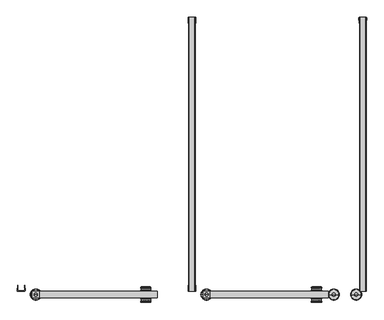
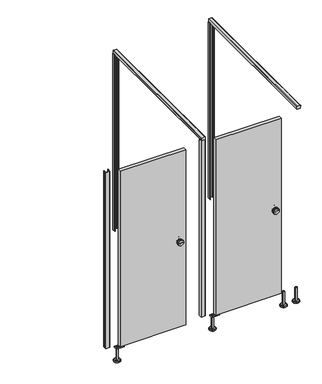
"""IFC4 building model written with IfcOpenShell, lengths in millimetres: proxy geometry, Partition_EuroStyle-Bradley_Corp-ADA_Alcove_3StandardStall-LOFT : Partition_EuroStyle-Bradley_Corp-ADA_Alcove_3StandardStall-LOFT."""

from ifc_helpers import new_model, si_unit, point, frame, frame_2d, origin, place, context, project, spatial, polyline, circle_curve, ellipse_curve, trimmed, segment, composite_curve, outline, extrude, source, transform, mapped, element, save
from ifc_brep_helpers import plane_surface, cylinder_surface, revolved_surface, advanced_brep


def specialty_equipment_7b1527e2(model_context):
    return source(origin(), model_context, "Body", "SolidModel", [
        extrude(outline(polyline([(146.0000008, 3530.6203258), (138.0669895, 3530.6203258), (138.0669895, 3610.4675589), (146.0000008, 3610.3689968), (146.0000008, 3530.6203258)])), frame((0.0, -1559.4621549, 0.0), z_axis=(0.0, 1.0, 0.0), x_axis=(0.0, 0.0, 1.0)), (0.0, 0.0, 1.0), 34.925),
        advanced_brep(
        [(3558.2203248, -1541.9996549, 150.0000008), (3540.2203255, -1541.9996549, 150.0000008), (3540.2203255, -1541.9996549, 12.0000001), (3558.2203248, -1541.9996549, 12.0000001), (3549.2203251, -1541.9996549, 150.0000008), (3580.2203241, -1541.9996549, 0.0), (3518.2203262, -1541.9996549, 0.0), (3549.2203251, -1541.9996549, 0.0), (3580.2203241, -1541.9996549, 10.0000001), (3518.2203262, -1541.9996549, 10.0000001), (3578.2179122, -1541.9996549, 12.0000001), (3520.2227381, -1541.9996549, 12.0000001)],
        [
            (0, 1, circle_curve(frame((3549.2203251, -1541.9996549, 150.0000008), z_axis=(0.0, 0.0, -1.0), x_axis=(-1.0, 0.0, 0.0)), 8.9999997)),
            (1, 2),
            (2, 3, circle_curve(frame((3549.2203251, -1541.9996549, 12.0000001), z_axis=(0.0, 0.0, 1.0), x_axis=(-1.0, 0.0, 0.0)), 8.9999997)),
            (3, 0),
            (1, 0, circle_curve(frame((3549.2203251, -1541.9996549, 150.0000008), z_axis=(0.0, 0.0, -1.0), x_axis=(-1.0, 0.0, 0.0)), 8.9999997)),
            (3, 2, circle_curve(frame((3549.2203251, -1541.9996549, 12.0000001), z_axis=(0.0, 0.0, 1.0), x_axis=(-1.0, 0.0, 0.0)), 8.9999997)),
            (4, 1),
            (0, 4),
            (5, 6, circle_curve(frame((3549.2203251, -1541.9996549, 0.0), z_axis=(0.0, 0.0, -1.0), x_axis=(-1.0, 0.0, 0.0)), 30.9999989)),
            (6, 7),
            (7, 5),
            (6, 5, circle_curve(frame((3549.2203251, -1541.9996549, 0.0), z_axis=(0.0, 0.0, -1.0), x_axis=(-1.0, 0.0, 0.0)), 30.9999989)),
            (8, 9, circle_curve(frame((3549.2203251, -1541.9996549, 10.0000001), z_axis=(0.0, 0.0, -1.0), x_axis=(-1.0, 0.0, 0.0)), 30.9999989)),
            (9, 6),
            (5, 8),
            (9, 8, circle_curve(frame((3549.2203251, -1541.9996549, 10.0000001), z_axis=(0.0, 0.0, -1.0), x_axis=(-1.0, 0.0, 0.0)), 30.9999989)),
            (10, 11, circle_curve(frame((3549.2203251, -1541.9996549, 12.0000001), z_axis=(0.0, 0.0, -1.0), x_axis=(-1.0, 0.0, 0.0)), 28.997587)),
            (11, 9),
            (8, 10),
            (11, 10, circle_curve(frame((3549.2203251, -1541.9996549, 12.0000001), z_axis=(0.0, 0.0, -1.0), x_axis=(-1.0, 0.0, 0.0)), 28.997587)),
            (2, 11),
            (10, 3),
        ],
        [
            cylinder_surface(frame((3549.2203251, -1541.9996549, 0.0), z_axis=(0.0, 0.0, 1.0), x_axis=(-1.0, 0.0, 0.0)), 8.9999997),
            plane_surface(frame((3549.2203251, -1541.9996549, 150.0000008), z_axis=(0.0, 0.0, 1.0), x_axis=(-1.0, 0.0, 0.0))),
            plane_surface(frame((3549.2203251, -1541.9996549, 0.0), z_axis=(0.0, 0.0, -1.0), x_axis=(-1.0, 0.0, 0.0))),
            cylinder_surface(frame((3549.2203251, -1541.9996549, 0.0), z_axis=(0.0, 0.0, 1.0), x_axis=(-1.0, 0.0, 0.0)), 30.9999989),
            revolved_surface(polyline([(3518.2203262, -1541.9996549, 10.0000001), (3520.2227381, -1541.9996549, 12.0000001)]), (3549.2203251, -1541.9996549, 0.0), (0.0, 0.0, 1.0)),
            plane_surface(frame((3549.2203251, -1541.9996549, 12.0000001), z_axis=(0.0, 0.0, 1.0), x_axis=(-1.0, 0.0, 0.0))),
        ],
        [
            (0, [[1, 2, 3, 4]]),
            (0, [[5, -4, 6, -2]]),
            (1, [[7, -1, 8]]),
            (1, [[-8, -5, -7]]),
            (2, [[9, 10, 11]]),
            (2, [[12, -11, -10]]),
            (3, [[13, 14, -9, 15]]),
            (3, [[16, -15, -12, -14]]),
            (4, [[17, 18, -13, 19]]),
            (4, [[20, -19, -16, -18]]),
            (5, [[-3, 21, -17, 22]]),
            (5, [[-6, -22, -20, -21]]),
        ],
    ),
        extrude(outline(polyline([(146.0000008, 2580.2203258), (138.0669895, 2580.2203258), (138.0669895, 2660.0675589), (146.0000008, 2659.9689968), (146.0000008, 2580.2203258)])), frame((0.0, -1559.4621549, 0.0), z_axis=(0.0, 1.0, 0.0), x_axis=(0.0, 0.0, 1.0)), (0.0, 0.0, 1.0), 34.925),
        advanced_brep(
        [(2607.8203248, -1541.9996549, 150.0000008), (2589.8203255, -1541.9996549, 150.0000008), (2589.8203255, -1541.9996549, 12.0000001), (2607.8203248, -1541.9996549, 12.0000001), (2598.8203251, -1541.9996549, 150.0000008), (2629.8203241, -1541.9996549, 0.0), (2567.8203262, -1541.9996549, 0.0), (2598.8203251, -1541.9996549, 0.0), (2629.8203241, -1541.9996549, 10.0000001), (2567.8203262, -1541.9996549, 10.0000001), (2627.8179122, -1541.9996549, 12.0000001), (2569.8227381, -1541.9996549, 12.0000001)],
        [
            (0, 1, circle_curve(frame((2598.8203251, -1541.9996549, 150.0000008), z_axis=(0.0, 0.0, -1.0), x_axis=(-1.0, 0.0, 0.0)), 8.9999997)),
            (1, 2),
            (2, 3, circle_curve(frame((2598.8203251, -1541.9996549, 12.0000001), z_axis=(0.0, 0.0, 1.0), x_axis=(-1.0, 0.0, 0.0)), 8.9999997)),
            (3, 0),
            (1, 0, circle_curve(frame((2598.8203251, -1541.9996549, 150.0000008), z_axis=(0.0, 0.0, -1.0), x_axis=(-1.0, 0.0, 0.0)), 8.9999997)),
            (3, 2, circle_curve(frame((2598.8203251, -1541.9996549, 12.0000001), z_axis=(0.0, 0.0, 1.0), x_axis=(-1.0, 0.0, 0.0)), 8.9999997)),
            (4, 1),
            (0, 4),
            (5, 6, circle_curve(frame((2598.8203251, -1541.9996549, 0.0), z_axis=(0.0, 0.0, -1.0), x_axis=(-1.0, 0.0, 0.0)), 30.9999989)),
            (6, 7),
            (7, 5),
            (6, 5, circle_curve(frame((2598.8203251, -1541.9996549, 0.0), z_axis=(0.0, 0.0, -1.0), x_axis=(-1.0, 0.0, 0.0)), 30.9999989)),
            (8, 9, circle_curve(frame((2598.8203251, -1541.9996549, 10.0000001), z_axis=(0.0, 0.0, -1.0), x_axis=(-1.0, 0.0, 0.0)), 30.9999989)),
            (9, 6),
            (5, 8),
            (9, 8, circle_curve(frame((2598.8203251, -1541.9996549, 10.0000001), z_axis=(0.0, 0.0, -1.0), x_axis=(-1.0, 0.0, 0.0)), 30.9999989)),
            (10, 11, circle_curve(frame((2598.8203251, -1541.9996549, 12.0000001), z_axis=(0.0, 0.0, -1.0), x_axis=(-1.0, 0.0, 0.0)), 28.997587)),
            (11, 9),
            (8, 10),
            (11, 10, circle_curve(frame((2598.8203251, -1541.9996549, 12.0000001), z_axis=(0.0, 0.0, -1.0), x_axis=(-1.0, 0.0, 0.0)), 28.997587)),
            (2, 11),
            (10, 3),
        ],
        [
            cylinder_surface(frame((2598.8203251, -1541.9996549, 0.0), z_axis=(0.0, 0.0, 1.0), x_axis=(-1.0, 0.0, 0.0)), 8.9999997),
            plane_surface(frame((2598.8203251, -1541.9996549, 150.0000008), z_axis=(0.0, 0.0, 1.0), x_axis=(-1.0, 0.0, 0.0))),
            plane_surface(frame((2598.8203251, -1541.9996549, 0.0), z_axis=(0.0, 0.0, -1.0), x_axis=(-1.0, 0.0, 0.0))),
            cylinder_surface(frame((2598.8203251, -1541.9996549, 0.0), z_axis=(0.0, 0.0, 1.0), x_axis=(-1.0, 0.0, 0.0)), 30.9999989),
            revolved_surface(polyline([(2567.8203262, -1541.9996549, 10.0000001), (2569.8227381, -1541.9996549, 12.0000001)]), (2598.8203251, -1541.9996549, 0.0), (0.0, 0.0, 1.0)),
            plane_surface(frame((2598.8203251, -1541.9996549, 12.0000001), z_axis=(0.0, 0.0, 1.0), x_axis=(-1.0, 0.0, 0.0))),
        ],
        [
            (0, [[1, 2, 3, 4]]),
            (0, [[5, -4, 6, -2]]),
            (1, [[7, -1, 8]]),
            (1, [[-8, -5, -7]]),
            (2, [[9, 10, 11]]),
            (2, [[12, -11, -10]]),
            (3, [[13, 14, -9, 15]]),
            (3, [[16, -15, -12, -14]]),
            (4, [[17, 18, -13, 19]]),
            (4, [[20, -19, -16, -18]]),
            (5, [[-3, 21, -17, 22]]),
            (5, [[-6, -22, -20, -21]]),
        ],
    ),
        advanced_brep(
        [(4133.2451766, -1524.0098174, 1050.0), (4190.3951766, -1524.0098174, 1050.0), (4161.8201766, -1524.0098174, 1050.0), (4133.2451766, -1519.2473174, 1050.0), (4190.3951766, -1519.2473174, 1050.0), (4133.2451766, -1500.1973174, 1050.0), (4190.3951766, -1500.1973174, 1050.0), (4190.3951766, -1504.9598174, 1050.0), (4133.2451766, -1504.9598174, 1050.0), (4188.8076766, -1506.5473174, 1050.0), (4134.8326766, -1506.5473174, 1050.0), (4188.8076766, -1517.6598174, 1050.0), (4134.8326766, -1517.6598174, 1050.0), (4161.8201766, -1498.6098174, 1050.0)],
        [
            (0, 1, circle_curve(frame((4161.8201766, -1524.0098174, 1050.0), z_axis=(0.0, -1.0, 0.0), x_axis=(1.0000000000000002, 0.0, 0.0)), 28.575)),
            (1, 2),
            (2, 0),
            (1, 0, circle_curve(frame((4161.8201766, -1524.0098174, 1050.0), z_axis=(0.0, -1.0, 0.0), x_axis=(1.0000000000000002, 0.0, 0.0)), 28.575)),
            (3, 4, circle_curve(frame((4161.8201766, -1519.2473174, 1050.0), z_axis=(0.0, -1.0, 0.0), x_axis=(1.0000000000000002, 0.0, 0.0)), 28.575)),
            (4, 1),
            (0, 3),
            (4, 3, circle_curve(frame((4161.8201766, -1519.2473174, 1050.0), z_axis=(0.0, -1.0, 0.0), x_axis=(1.0000000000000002, 0.0, 0.0)), 28.575)),
            (5, 6, circle_curve(frame((4161.8201766, -1500.1973174, 1050.0), z_axis=(0.0, -1.0, 0.0), x_axis=(1.0000000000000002, 0.0, 0.0)), 28.575)),
            (6, 7),
            (7, 8, circle_curve(frame((4161.8201766, -1504.9598174, 1050.0), z_axis=(0.0, 1.0, 0.0), x_axis=(1.0000000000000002, 0.0, 0.0)), 28.575)),
            (8, 5),
            (6, 5, circle_curve(frame((4161.8201766, -1500.1973174, 1050.0), z_axis=(0.0, -1.0, 0.0), x_axis=(1.0000000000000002, 0.0, 0.0)), 28.575)),
            (8, 7, circle_curve(frame((4161.8201766, -1504.9598174, 1050.0), z_axis=(0.0, 1.0, 0.0), x_axis=(1.0000000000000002, 0.0, 0.0)), 28.575)),
            (7, 9, circle_curve(frame((4190.3951766, -1506.5473174, 1050.0), z_axis=(0.0, 0.0, 1.0), x_axis=(1.0000000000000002, 0.0, 0.0)), 1.5875)),
            (9, 10, circle_curve(frame((4161.8201766, -1506.5473174, 1050.0), z_axis=(0.0, 1.0, 0.0), x_axis=(1.0000000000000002, 0.0, 0.0)), 26.9875)),
            (10, 8, circle_curve(frame((4133.2451766, -1506.5473174, 1050.0), z_axis=(0.0, 0.0, 1.0), x_axis=(-1.0000000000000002, 0.0, 0.0)), 1.5875)),
            (10, 9, circle_curve(frame((4161.8201766, -1506.5473174, 1050.0), z_axis=(0.0, 1.0, 0.0), x_axis=(1.0000000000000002, 0.0, 0.0)), 26.9875)),
            (9, 11),
            (11, 12, circle_curve(frame((4161.8201766, -1517.6598174, 1050.0), z_axis=(0.0, 1.0, 0.0), x_axis=(1.0000000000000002, 0.0, 0.0)), 26.9875)),
            (12, 10),
            (12, 11, circle_curve(frame((4161.8201766, -1517.6598174, 1050.0), z_axis=(0.0, 1.0, 0.0), x_axis=(1.0000000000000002, 0.0, 0.0)), 26.9875)),
            (11, 4, circle_curve(frame((4190.3951766, -1517.6598174, 1050.0), z_axis=(0.0, 0.0, 1.0), x_axis=(1.0000000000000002, 0.0, 0.0)), 1.5875)),
            (3, 12, circle_curve(frame((4133.2451766, -1517.6598174, 1050.0), z_axis=(0.0, 0.0, 1.0), x_axis=(-1.0000000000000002, 0.0, 0.0)), 1.5875)),
            (13, 6, circle_curve(frame((4165.5143, -1690.0843466, 1050.0), z_axis=(0.0, 0.0, -1.0), x_axis=(1.0000000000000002, 0.0, 0.0)), 191.5101613)),
            (5, 13, circle_curve(frame((4158.1260533, -1690.0843466, 1050.0), z_axis=(0.0, 0.0, -1.0), x_axis=(-1.0000000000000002, 0.0, 0.0)), 191.5101613)),
        ],
        [
            plane_surface(frame((4161.8201766, -1524.0098174, 1050.0), z_axis=(0.0, -1.0, 0.0), x_axis=(1.0, 0.0, 0.0))),
            cylinder_surface(frame((4161.8201766, -1524.0098174, 1050.0), z_axis=(0.0, 1.0000000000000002, 0.0), x_axis=(1.0000000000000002, 0.0, 0.0)), 28.575),
            revolved_surface(trimmed(ellipse_curve(frame((4190.3951766, -1506.5473174, 1050.0), z_axis=(0.0, 0.0, -1.0), x_axis=(1.0000000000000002, 0.0, 0.0)), 1.5875, 1.5875), [point((4188.8076766, -1506.5473174, 1050.0))], [point((4190.3951766, -1504.9598174, 1050.0))], True, "CARTESIAN"), (4161.8201766, -1524.0098174, 1050.0), (0.0, 1.0000000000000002, 0.0)),
            cylinder_surface(frame((4161.8201766, -1524.0098174, 1050.0), z_axis=(0.0, 1.0000000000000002, 0.0), x_axis=(1.0000000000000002, 0.0, 0.0)), 26.9875),
            revolved_surface(trimmed(ellipse_curve(frame((4190.3951766, -1517.6598174, 1050.0), z_axis=(0.0, 0.0, -1.0), x_axis=(1.0000000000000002, 0.0, 0.0)), 1.5875, 1.5875), [point((4190.3951766, -1519.2473174, 1050.0))], [point((4188.8076766, -1517.6598174, 1050.0))], True, "CARTESIAN"), (4161.8201766, -1524.0098174, 1050.0), (0.0, 1.0000000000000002, 0.0)),
            revolved_surface(trimmed(ellipse_curve(frame((4165.5143, -1690.0843466, 1050.0), z_axis=(0.0, 0.0, 1.0), x_axis=(1.0000000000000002, 0.0, 0.0)), 191.5101613, 191.5101613), [point((4190.3951766, -1500.1973174, 1050.0))], [point((4161.8201766, -1498.6098174, 1050.0))], True, "CARTESIAN"), (4161.8201766, -1524.0098174, 1050.0), (0.0, 1.0000000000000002, 0.0)),
        ],
        [
            (0, [[1, 2, 3]]),
            (0, [[4, -3, -2]]),
            (1, [[5, 6, -1, 7]]),
            (1, [[8, -7, -4, -6]]),
            (1, [[9, 10, 11, 12]]),
            (1, [[13, -12, 14, -10]]),
            (2, [[-11, 15, 16, 17]]),
            (2, [[-14, -17, 18, -15]]),
            (3, [[-16, 19, 20, 21]]),
            (3, [[-18, -21, 22, -19]]),
            (4, [[-20, 23, -5, 24]]),
            (4, [[-22, -24, -8, -23]]),
            (5, [[25, -9, 26]]),
            (5, [[-26, -13, -25]]),
        ],
    ),
        advanced_brep(
        [(4161.8201766, -1560.0098174, 1050.0), (4190.3951766, -1560.0098174, 1050.0), (4133.2451766, -1560.0098174, 1050.0), (4190.3951766, -1564.7723174, 1050.0), (4133.2451766, -1564.7723174, 1050.0), (4133.2451766, -1579.0598174, 1050.0), (4190.3951766, -1579.0598174, 1050.0), (4190.3951766, -1583.8223174, 1050.0), (4133.2451766, -1583.8223174, 1050.0), (4134.8326766, -1577.4723174, 1050.0), (4188.8076766, -1577.4723174, 1050.0), (4134.8326766, -1566.3598174, 1050.0), (4188.8076766, -1566.3598174, 1050.0), (4161.8201766, -1585.4098174, 1050.0)],
        [
            (0, 1),
            (1, 2, circle_curve(frame((4161.8201766, -1560.0098174, 1050.0), z_axis=(0.0, 1.0, 0.0), x_axis=(1.0000000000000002, 0.0, 0.0)), 28.575)),
            (2, 0),
            (2, 1, circle_curve(frame((4161.8201766, -1560.0098174, 1050.0), z_axis=(0.0, 1.0, 0.0), x_axis=(1.0000000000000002, 0.0, 0.0)), 28.575)),
            (1, 3),
            (3, 4, circle_curve(frame((4161.8201766, -1564.7723174, 1050.0), z_axis=(0.0, 1.0, 0.0), x_axis=(1.0000000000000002, 0.0, 0.0)), 28.575)),
            (4, 2),
            (4, 3, circle_curve(frame((4161.8201766, -1564.7723174, 1050.0), z_axis=(0.0, 1.0, 0.0), x_axis=(1.0000000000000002, 0.0, 0.0)), 28.575)),
            (5, 6, circle_curve(frame((4161.8201766, -1579.0598174, 1050.0), z_axis=(0.0, -1.0, 0.0), x_axis=(1.0000000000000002, 0.0, 0.0)), 28.575)),
            (6, 7),
            (7, 8, circle_curve(frame((4161.8201766, -1583.8223174, 1050.0), z_axis=(0.0, 1.0, 0.0), x_axis=(1.0000000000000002, 0.0, 0.0)), 28.575)),
            (8, 5),
            (6, 5, circle_curve(frame((4161.8201766, -1579.0598174, 1050.0), z_axis=(0.0, -1.0, 0.0), x_axis=(1.0000000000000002, 0.0, 0.0)), 28.575)),
            (8, 7, circle_curve(frame((4161.8201766, -1583.8223174, 1050.0), z_axis=(0.0, 1.0, 0.0), x_axis=(1.0000000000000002, 0.0, 0.0)), 28.575)),
            (9, 10, circle_curve(frame((4161.8201766, -1577.4723174, 1050.0), z_axis=(0.0, -1.0, 0.0), x_axis=(1.0000000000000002, 0.0, 0.0)), 26.9875)),
            (10, 6, circle_curve(frame((4190.3951766, -1577.4723174, 1050.0), z_axis=(0.0, 0.0, 1.0), x_axis=(1.0000000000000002, 0.0, 0.0)), 1.5875)),
            (5, 9, circle_curve(frame((4133.2451766, -1577.4723174, 1050.0), z_axis=(0.0, 0.0, 1.0), x_axis=(-1.0000000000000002, 0.0, 0.0)), 1.5875)),
            (10, 9, circle_curve(frame((4161.8201766, -1577.4723174, 1050.0), z_axis=(0.0, -1.0, 0.0), x_axis=(1.0000000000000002, 0.0, 0.0)), 26.9875)),
            (11, 12, circle_curve(frame((4161.8201766, -1566.3598174, 1050.0), z_axis=(0.0, -1.0, 0.0), x_axis=(1.0000000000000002, 0.0, 0.0)), 26.9875)),
            (12, 10),
            (9, 11),
            (12, 11, circle_curve(frame((4161.8201766, -1566.3598174, 1050.0), z_axis=(0.0, -1.0, 0.0), x_axis=(1.0000000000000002, 0.0, 0.0)), 26.9875)),
            (3, 12, circle_curve(frame((4190.3951766, -1566.3598174, 1050.0), z_axis=(0.0, 0.0, 1.0), x_axis=(1.0000000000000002, 0.0, 0.0)), 1.5875)),
            (11, 4, circle_curve(frame((4133.2451766, -1566.3598174, 1050.0), z_axis=(0.0, 0.0, 1.0), x_axis=(-1.0000000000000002, 0.0, 0.0)), 1.5875)),
            (7, 13, circle_curve(frame((4165.5143, -1393.9352882, 1050.0), z_axis=(0.0, 0.0, -1.0), x_axis=(1.0000000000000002, 0.0, 0.0)), 191.5101613)),
            (13, 8, circle_curve(frame((4158.1260533, -1393.9352882, 1050.0), z_axis=(0.0, 0.0, -1.0), x_axis=(-1.0000000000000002, 0.0, 0.0)), 191.5101613)),
        ],
        [
            plane_surface(frame((4161.8201766, -1560.0098174, 1050.0), z_axis=(0.0, 1.0, 0.0), x_axis=(1.0, 0.0, 0.0))),
            cylinder_surface(frame((4161.8201766, -1560.0098174, 1050.0), z_axis=(0.0, 1.0000000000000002, 0.0), x_axis=(1.0000000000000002, 0.0, 0.0)), 28.575),
            revolved_surface(trimmed(ellipse_curve(frame((4190.3951766, -1577.4723174, 1050.0), z_axis=(0.0, 0.0, -1.0), x_axis=(1.0000000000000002, 0.0, 0.0)), 1.5875, 1.5875), [point((4190.3951766, -1579.0598174, 1050.0))], [point((4188.8076766, -1577.4723174, 1050.0))], True, "CARTESIAN"), (4161.8201766, -1560.0098174, 1050.0), (0.0, 1.0000000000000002, 0.0)),
            cylinder_surface(frame((4161.8201766, -1560.0098174, 1050.0), z_axis=(0.0, 1.0000000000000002, 0.0), x_axis=(1.0000000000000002, 0.0, 0.0)), 26.9875),
            revolved_surface(trimmed(ellipse_curve(frame((4190.3951766, -1566.3598174, 1050.0), z_axis=(0.0, 0.0, -1.0), x_axis=(1.0000000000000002, 0.0, 0.0)), 1.5875, 1.5875), [point((4188.8076766, -1566.3598174, 1050.0))], [point((4190.3951766, -1564.7723174, 1050.0))], True, "CARTESIAN"), (4161.8201766, -1560.0098174, 1050.0), (0.0, 1.0000000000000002, 0.0)),
            revolved_surface(trimmed(ellipse_curve(frame((4165.5143, -1393.9352882, 1050.0), z_axis=(0.0, 0.0, 1.0), x_axis=(1.0000000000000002, 0.0, 0.0)), 191.5101613, 191.5101613), [point((4161.8201766, -1585.4098174, 1050.0))], [point((4190.3951766, -1583.8223174, 1050.0))], True, "CARTESIAN"), (4161.8201766, -1560.0098174, 1050.0), (0.0, 1.0000000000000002, 0.0)),
        ],
        [
            (0, [[1, 2, 3]]),
            (0, [[-3, 4, -1]]),
            (1, [[-2, 5, 6, 7]]),
            (1, [[-4, -7, 8, -5]]),
            (1, [[9, 10, 11, 12]]),
            (1, [[13, -12, 14, -10]]),
            (2, [[15, 16, -9, 17]]),
            (2, [[18, -17, -13, -16]]),
            (3, [[19, 20, -15, 21]]),
            (3, [[22, -21, -18, -20]]),
            (4, [[-6, 23, -19, 24]]),
            (4, [[-8, -24, -22, -23]]),
            (5, [[-11, 25, 26]]),
            (5, [[-14, -26, -25]]),
        ],
    ),
        extrude(outline(polyline([(3570.2170903, -1523.9894923), (4225.3201766, -1523.9894923), (4225.3201766, -1560.0098174), (3570.2170903, -1560.0098174), (3570.2170903, -1523.9894923)])), frame((0.0, 0.0, 150.1179687), z_axis=(0.0, 0.0, 1.0), x_axis=(1.0, 0.0, 0.0)), (0.0, 0.0, 1.0), 1845.8820313),
        extrude(outline(composite_curve([segment(polyline([(3447.7288796, -1491.4999998), (3449.2274652, -1491.4999998)]), True, "CONTINUOUS"), segment(trimmed(circle_curve(frame_2d((3449.2238978, -1492.4990918)), 0.9990984), [point((3449.2274652, -1491.4999998))], [point((3449.6975504, -1493.3787798))], False, "CARTESIAN"), True, "CONTINUOUS"), segment(polyline([(3449.6975504, -1493.3787798), (3449.5764404, -1500.6424298)]), True, "CONTINUOUS"), segment(trimmed(circle_curve(frame_2d((3449.0588945, -1501.4999449)), 1.0015917), [point((3449.5764404, -1500.6424298))], [point((3449.5475604, -1502.3742398))], False, "CARTESIAN"), True, "CONTINUOUS"), segment(polyline([(3449.5475604, -1502.3742398), (3449.2535049, -1520.0104531)]), True, "CONTINUOUS"), segment(trimmed(circle_curve(frame_2d((3451.2536968, -1519.9997796)), 2.0002204), [point((3449.2535049, -1520.0104531))], [point((3451.2536968, -1522.0))], True, "CARTESIAN"), True, "CONTINUOUS"), segment(polyline([(3451.2536968, -1522.0), (3485.1379958, -1522.0)]), True, "CONTINUOUS"), segment(trimmed(circle_curve(frame_2d((3485.1870154, -1520.0009061)), 1.9996948), [point((3485.1379958, -1522.0))], [point((3487.18671, -1520.0))], True, "CARTESIAN"), True, "CONTINUOUS"), segment(polyline([(3487.18671, -1520.0), (3486.8926587, -1502.3739987)]), True, "CONTINUOUS"), segment(trimmed(circle_curve(frame_2d((3487.3817558, -1501.4999449)), 1.0015917), [point((3486.8926587, -1502.3739987))], [point((3486.8642099, -1500.6424298))], False, "CARTESIAN"), True, "CONTINUOUS"), segment(polyline([(3486.8642099, -1500.6424298), (3486.7430999, -1493.3787798)]), True, "CONTINUOUS"), segment(trimmed(circle_curve(frame_2d((3487.2167525, -1492.4990918)), 0.9990984), [point((3486.7430999, -1493.3787798))], [point((3487.2131851, -1491.4999998))], False, "CARTESIAN"), True, "CONTINUOUS"), segment(polyline([(3487.2131851, -1491.4999998), (3488.7117707, -1491.4999998), (3489.2201098, -1521.97082)]), True, "CONTINUOUS"), segment(trimmed(circle_curve(frame_2d((3487.1909298, -1521.97082)), 2.02918), [point((3489.2201098, -1521.97082))], [point((3487.1909298, -1524.0))], False, "CARTESIAN"), True, "CONTINUOUS"), segment(polyline([(3487.1909298, -1524.0), (3449.2497205, -1524.0)]), True, "CONTINUOUS"), segment(trimmed(circle_curve(frame_2d((3449.2497205, -1521.97082)), 2.02918), [point((3449.2497205, -1524.0))], [point((3447.2205405, -1521.97082))], False, "CARTESIAN"), True, "CONTINUOUS"), segment(polyline([(3447.2205405, -1521.97082), (3447.7288796, -1491.4999998)]), True, "CONTINUOUS")], self_intersect=False)), frame((0.0, 0.0, 150.0), z_axis=(0.0, 0.0, 1.0), x_axis=(1.0, 0.0, 0.0)), (0.0, 0.0, 1.0), 1855.0),
        extrude(outline(composite_curve([segment(polyline([(4398.1288796, -32.5000002), (4397.6205405, -2.02918)]), True, "CONTINUOUS"), segment(trimmed(circle_curve(frame_2d((4399.6497205, -2.02918)), 2.02918), [point((4397.6205405, -2.02918))], [point((4399.6497205, 0.0))], False, "CARTESIAN"), True, "CONTINUOUS"), segment(polyline([(4399.6497205, 0.0), (4437.5909298, 0.0)]), True, "CONTINUOUS"), segment(trimmed(circle_curve(frame_2d((4437.5909298, -2.02918)), 2.02918), [point((4437.5909298, 0.0))], [point((4439.6201098, -2.02918))], False, "CARTESIAN"), True, "CONTINUOUS"), segment(polyline([(4439.6201098, -2.02918), (4439.1117707, -32.5000002), (4437.6131851, -32.5000002)]), True, "CONTINUOUS"), segment(trimmed(circle_curve(frame_2d((4437.6167525, -31.5009082)), 0.9990984), [point((4437.6131851, -32.5000002))], [point((4437.1430999, -30.6212202))], False, "CARTESIAN"), True, "CONTINUOUS"), segment(polyline([(4437.1430999, -30.6212202), (4437.2642099, -23.3575702)]), True, "CONTINUOUS"), segment(trimmed(circle_curve(frame_2d((4437.7817558, -22.5000551)), 1.0015917), [point((4437.2642099, -23.3575702))], [point((4437.2926587, -21.6260013))], False, "CARTESIAN"), True, "CONTINUOUS"), segment(polyline([(4437.2926587, -21.6260013), (4437.58671, -4.0)]), True, "CONTINUOUS"), segment(trimmed(circle_curve(frame_2d((4435.5870154, -3.9990939)), 1.9996948), [point((4437.58671, -4.0))], [point((4435.5379958, -2.0))], True, "CARTESIAN"), True, "CONTINUOUS"), segment(polyline([(4435.5379958, -2.0), (4401.6536968, -2.0)]), True, "CONTINUOUS"), segment(trimmed(circle_curve(frame_2d((4401.6536968, -4.0002204)), 2.0002204), [point((4401.6536968, -2.0))], [point((4399.6535049, -3.9895469))], True, "CARTESIAN"), True, "CONTINUOUS"), segment(polyline([(4399.6535049, -3.9895469), (4399.9475604, -21.6257602)]), True, "CONTINUOUS"), segment(trimmed(circle_curve(frame_2d((4399.4588945, -22.5000551)), 1.0015917), [point((4399.9475604, -21.6257602))], [point((4399.9764404, -23.3575702))], False, "CARTESIAN"), True, "CONTINUOUS"), segment(polyline([(4399.9764404, -23.3575702), (4400.0975504, -30.6212202)]), True, "CONTINUOUS"), segment(trimmed(circle_curve(frame_2d((4399.6238978, -31.5009082)), 0.9990984), [point((4400.0975504, -30.6212202))], [point((4399.6274652, -32.5000002))], False, "CARTESIAN"), True, "CONTINUOUS"), segment(polyline([(4399.6274652, -32.5000002), (4398.1288796, -32.5000002)]), True, "CONTINUOUS")], self_intersect=False)), frame((0.0, 0.0, 150.0), z_axis=(0.0, 0.0, 1.0), x_axis=(1.0, 0.0, 0.0)), (0.0, 0.0, 1.0), 1855.0),
        extrude(outline(composite_curve([segment(polyline([(2032.9666591, 4400.6203701), (2005.7492965, 4401.0741806)]), True, "CONTINUOUS"), segment(trimmed(circle_curve(frame_2d((2005.762, 4401.8360747)), 0.762), [point((2005.7492965, 4401.0741806))], [point((2005.0, 4401.8360747))], False, "CARTESIAN"), True, "CONTINUOUS"), segment(polyline([(2005.0, 4401.8360747), (2005.0, 4435.3733505)]), True, "CONTINUOUS"), segment(trimmed(circle_curve(frame_2d((2005.79375, 4435.3733505)), 0.79375), [point((2005.0, 4435.3733505))], [point((2005.7805172, 4436.1669902))], False, "CARTESIAN"), True, "CONTINUOUS"), segment(polyline([(2005.7805172, 4436.1669902), (2032.9666591, 4436.6202802)]), True, "CONTINUOUS"), segment(trimmed(circle_curve(frame_2d((2033.0000015, 4434.6205597)), 1.9999985), [point((2032.9666591, 4436.6202802))], [point((2035.0, 4434.6205597))], False, "CARTESIAN"), True, "CONTINUOUS"), segment(polyline([(2035.0, 4434.6205597), (2035.0, 4402.6200907)]), True, "CONTINUOUS"), segment(trimmed(circle_curve(frame_2d((2033.0000015, 4402.6200907)), 1.9999985), [point((2035.0, 4402.6200907))], [point((2032.9666591, 4400.6203701))], False, "CARTESIAN"), True, "CONTINUOUS")], self_intersect=False)), frame((0.0, -1524.0, 0.0), z_axis=(0.0, 1.0, 0.0), x_axis=(0.0, 0.0, 1.0)), (0.0, 0.0, 1.0), 1524.0),
        advanced_brep(
        [(4372.5703255, -1541.9996549, 150.0000008), (4390.5703248, -1541.9996549, 150.0000008), (4390.5703248, -1541.9996549, 12.0000001), (4372.5703255, -1541.9996549, 12.0000001), (4381.5703251, -1541.9996549, 150.0000008), (4350.5703262, -1541.9996549, 0.0), (4412.5703241, -1541.9996549, 0.0), (4381.5703251, -1541.9996549, 0.0), (4350.5703262, -1541.9996549, 10.0000001), (4412.5703241, -1541.9996549, 10.0000001), (4352.5727381, -1541.9996549, 12.0000001), (4410.5679122, -1541.9996549, 12.0000001)],
        [
            (0, 1, circle_curve(frame((4381.5703251, -1541.9996549, 150.0000008), z_axis=(0.0, 0.0, -1.0), x_axis=(1.0, 0.0, 0.0)), 8.9999997)),
            (1, 2),
            (2, 3, circle_curve(frame((4381.5703251, -1541.9996549, 12.0000001), z_axis=(0.0, 0.0, 1.0), x_axis=(1.0, 0.0, 0.0)), 8.9999997)),
            (3, 0),
            (1, 0, circle_curve(frame((4381.5703251, -1541.9996549, 150.0000008), z_axis=(0.0, 0.0, -1.0), x_axis=(1.0, 0.0, 0.0)), 8.9999997)),
            (3, 2, circle_curve(frame((4381.5703251, -1541.9996549, 12.0000001), z_axis=(0.0, 0.0, 1.0), x_axis=(1.0, 0.0, 0.0)), 8.9999997)),
            (4, 1),
            (0, 4),
            (5, 6, circle_curve(frame((4381.5703251, -1541.9996549, 0.0), z_axis=(0.0, 0.0, -1.0), x_axis=(1.0, 0.0, 0.0)), 30.9999989)),
            (6, 7),
            (7, 5),
            (6, 5, circle_curve(frame((4381.5703251, -1541.9996549, 0.0), z_axis=(0.0, 0.0, -1.0), x_axis=(1.0, 0.0, 0.0)), 30.9999989)),
            (8, 9, circle_curve(frame((4381.5703251, -1541.9996549, 10.0000001), z_axis=(0.0, 0.0, -1.0), x_axis=(1.0, 0.0, 0.0)), 30.9999989)),
            (9, 6),
            (5, 8),
            (9, 8, circle_curve(frame((4381.5703251, -1541.9996549, 10.0000001), z_axis=(0.0, 0.0, -1.0), x_axis=(1.0, 0.0, 0.0)), 30.9999989)),
            (10, 11, circle_curve(frame((4381.5703251, -1541.9996549, 12.0000001), z_axis=(0.0, 0.0, -1.0), x_axis=(1.0, 0.0, 0.0)), 28.997587)),
            (11, 9),
            (8, 10),
            (11, 10, circle_curve(frame((4381.5703251, -1541.9996549, 12.0000001), z_axis=(0.0, 0.0, -1.0), x_axis=(1.0, 0.0, 0.0)), 28.997587)),
            (2, 11),
            (10, 3),
        ],
        [
            cylinder_surface(frame((4381.5703251, -1541.9996549, 0.0), z_axis=(0.0, 0.0, 1.0), x_axis=(1.0, 0.0, 0.0)), 8.9999997),
            plane_surface(frame((4381.5703251, -1541.9996549, 150.0000008), z_axis=(0.0, 0.0, 1.0), x_axis=(1.0, 0.0, 0.0))),
            plane_surface(frame((4381.5703251, -1541.9996549, 0.0), z_axis=(0.0, 0.0, -1.0), x_axis=(1.0, 0.0, 0.0))),
            cylinder_surface(frame((4381.5703251, -1541.9996549, 0.0), z_axis=(0.0, 0.0, 1.0), x_axis=(1.0, 0.0, 0.0)), 30.9999989),
            revolved_surface(polyline([(4412.5703241, -1541.9996549, 10.0000001), (4410.5679122, -1541.9996549, 12.0000001)]), (4381.5703251, -1541.9996549, 0.0), (0.0, 0.0, 1.0)),
            plane_surface(frame((4381.5703251, -1541.9996549, 12.0000001), z_axis=(0.0, 0.0, 1.0), x_axis=(1.0, 0.0, 0.0))),
        ],
        [
            (0, [[1, 2, 3, 4]]),
            (0, [[5, -4, 6, -2]]),
            (1, [[7, -1, 8]]),
            (1, [[-8, -5, -7]]),
            (2, [[9, 10, 11]]),
            (2, [[12, -11, -10]]),
            (3, [[13, 14, -9, 15]]),
            (3, [[16, -15, -12, -14]]),
            (4, [[17, 18, -13, 19]]),
            (4, [[20, -19, -16, -18]]),
            (5, [[-3, 21, -17, 22]]),
            (5, [[-6, -22, -20, -21]]),
        ],
    ),
        advanced_brep(
        [(4248.2453255, -1541.9996549, 150.0000008), (4266.2453248, -1541.9996549, 150.0000008), (4266.2453248, -1541.9996549, 12.0000001), (4248.2453255, -1541.9996549, 12.0000001), (4257.2453251, -1541.9996549, 150.0000008), (4226.2453262, -1541.9996549, 0.0), (4288.2453241, -1541.9996549, 0.0), (4257.2453251, -1541.9996549, 0.0), (4226.2453262, -1541.9996549, 10.0000001), (4288.2453241, -1541.9996549, 10.0000001), (4228.2477381, -1541.9996549, 12.0000001), (4286.2429122, -1541.9996549, 12.0000001)],
        [
            (0, 1, circle_curve(frame((4257.2453251, -1541.9996549, 150.0000008), z_axis=(0.0, 0.0, -1.0), x_axis=(1.0, 0.0, 0.0)), 8.9999997)),
            (1, 2),
            (2, 3, circle_curve(frame((4257.2453251, -1541.9996549, 12.0000001), z_axis=(0.0, 0.0, 1.0), x_axis=(1.0, 0.0, 0.0)), 8.9999997)),
            (3, 0),
            (1, 0, circle_curve(frame((4257.2453251, -1541.9996549, 150.0000008), z_axis=(0.0, 0.0, -1.0), x_axis=(1.0, 0.0, 0.0)), 8.9999997)),
            (3, 2, circle_curve(frame((4257.2453251, -1541.9996549, 12.0000001), z_axis=(0.0, 0.0, 1.0), x_axis=(1.0, 0.0, 0.0)), 8.9999997)),
            (4, 1),
            (0, 4),
            (5, 6, circle_curve(frame((4257.2453251, -1541.9996549, 0.0), z_axis=(0.0, 0.0, -1.0), x_axis=(1.0, 0.0, 0.0)), 30.9999989)),
            (6, 7),
            (7, 5),
            (6, 5, circle_curve(frame((4257.2453251, -1541.9996549, 0.0), z_axis=(0.0, 0.0, -1.0), x_axis=(1.0, 0.0, 0.0)), 30.9999989)),
            (8, 9, circle_curve(frame((4257.2453251, -1541.9996549, 10.0000001), z_axis=(0.0, 0.0, -1.0), x_axis=(1.0, 0.0, 0.0)), 30.9999989)),
            (9, 6),
            (5, 8),
            (9, 8, circle_curve(frame((4257.2453251, -1541.9996549, 10.0000001), z_axis=(0.0, 0.0, -1.0), x_axis=(1.0, 0.0, 0.0)), 30.9999989)),
            (10, 11, circle_curve(frame((4257.2453251, -1541.9996549, 12.0000001), z_axis=(0.0, 0.0, -1.0), x_axis=(1.0, 0.0, 0.0)), 28.997587)),
            (11, 9),
            (8, 10),
            (11, 10, circle_curve(frame((4257.2453251, -1541.9996549, 12.0000001), z_axis=(0.0, 0.0, -1.0), x_axis=(1.0, 0.0, 0.0)), 28.997587)),
            (2, 11),
            (10, 3),
        ],
        [
            cylinder_surface(frame((4257.2453251, -1541.9996549, 0.0), z_axis=(0.0, 0.0, 1.0), x_axis=(1.0, 0.0, 0.0)), 8.9999997),
            plane_surface(frame((4257.2453251, -1541.9996549, 150.0000008), z_axis=(0.0, 0.0, 1.0), x_axis=(1.0, 0.0, 0.0))),
            plane_surface(frame((4257.2453251, -1541.9996549, 0.0), z_axis=(0.0, 0.0, -1.0), x_axis=(1.0, 0.0, 0.0))),
            cylinder_surface(frame((4257.2453251, -1541.9996549, 0.0), z_axis=(0.0, 0.0, 1.0), x_axis=(1.0, 0.0, 0.0)), 30.9999989),
            revolved_surface(polyline([(4288.2453241, -1541.9996549, 10.0000001), (4286.2429122, -1541.9996549, 12.0000001)]), (4257.2453251, -1541.9996549, 0.0), (0.0, 0.0, 1.0)),
            plane_surface(frame((4257.2453251, -1541.9996549, 12.0000001), z_axis=(0.0, 0.0, 1.0), x_axis=(1.0, 0.0, 0.0))),
        ],
        [
            (0, [[1, 2, 3, 4]]),
            (0, [[5, -4, 6, -2]]),
            (1, [[7, -1, 8]]),
            (1, [[-8, -5, -7]]),
            (2, [[9, 10, 11]]),
            (2, [[12, -11, -10]]),
            (3, [[13, 14, -9, 15]]),
            (3, [[16, -15, -12, -14]]),
            (4, [[17, 18, -13, 19]]),
            (4, [[20, -19, -16, -18]]),
            (5, [[-3, 21, -17, 22]]),
            (5, [[-6, -22, -20, -21]]),
        ],
    ),
        extrude(outline(composite_curve([segment(polyline([(2497.3288796, -1491.4999998), (2498.8274652, -1491.4999998)]), True, "CONTINUOUS"), segment(trimmed(circle_curve(frame_2d((2498.8238978, -1492.4990918)), 0.9990984), [point((2498.8274652, -1491.4999998))], [point((2499.2975504, -1493.3787798))], False, "CARTESIAN"), True, "CONTINUOUS"), segment(polyline([(2499.2975504, -1493.3787798), (2499.1764404, -1500.6424298)]), True, "CONTINUOUS"), segment(trimmed(circle_curve(frame_2d((2498.6588945, -1501.4999449)), 1.0015917), [point((2499.1764404, -1500.6424298))], [point((2499.1475604, -1502.3742398))], False, "CARTESIAN"), True, "CONTINUOUS"), segment(polyline([(2499.1475604, -1502.3742398), (2498.8535049, -1520.0104531)]), True, "CONTINUOUS"), segment(trimmed(circle_curve(frame_2d((2500.8536968, -1519.9997796)), 2.0002204), [point((2498.8535049, -1520.0104531))], [point((2500.8536968, -1522.0))], True, "CARTESIAN"), True, "CONTINUOUS"), segment(polyline([(2500.8536968, -1522.0), (2534.7379958, -1522.0)]), True, "CONTINUOUS"), segment(trimmed(circle_curve(frame_2d((2534.7870154, -1520.0009061)), 1.9996948), [point((2534.7379958, -1522.0))], [point((2536.78671, -1520.0))], True, "CARTESIAN"), True, "CONTINUOUS"), segment(polyline([(2536.78671, -1520.0), (2536.4926587, -1502.3739987)]), True, "CONTINUOUS"), segment(trimmed(circle_curve(frame_2d((2536.9817558, -1501.4999449)), 1.0015917), [point((2536.4926587, -1502.3739987))], [point((2536.4642099, -1500.6424298))], False, "CARTESIAN"), True, "CONTINUOUS"), segment(polyline([(2536.4642099, -1500.6424298), (2536.3430999, -1493.3787798)]), True, "CONTINUOUS"), segment(trimmed(circle_curve(frame_2d((2536.8167525, -1492.4990918)), 0.9990984), [point((2536.3430999, -1493.3787798))], [point((2536.8131851, -1491.4999998))], False, "CARTESIAN"), True, "CONTINUOUS"), segment(polyline([(2536.8131851, -1491.4999998), (2538.3117707, -1491.4999998), (2538.8201098, -1521.97082)]), True, "CONTINUOUS"), segment(trimmed(circle_curve(frame_2d((2536.7909298, -1521.97082)), 2.02918), [point((2538.8201098, -1521.97082))], [point((2536.7909298, -1524.0))], False, "CARTESIAN"), True, "CONTINUOUS"), segment(polyline([(2536.7909298, -1524.0), (2498.8497205, -1524.0)]), True, "CONTINUOUS"), segment(trimmed(circle_curve(frame_2d((2498.8497205, -1521.97082)), 2.02918), [point((2498.8497205, -1524.0))], [point((2496.8205405, -1521.97082))], False, "CARTESIAN"), True, "CONTINUOUS"), segment(polyline([(2496.8205405, -1521.97082), (2497.3288796, -1491.4999998)]), True, "CONTINUOUS")], self_intersect=False)), frame((0.0, 0.0, 150.0), z_axis=(0.0, 0.0, 1.0), x_axis=(1.0, 0.0, 0.0)), (0.0, 0.0, 1.0), 1855.0),
        advanced_brep(
        [(3182.8451766, -1524.0098174, 1050.0), (3239.9951766, -1524.0098174, 1050.0), (3211.4201766, -1524.0098174, 1050.0), (3182.8451766, -1519.2473174, 1050.0), (3239.9951766, -1519.2473174, 1050.0), (3182.8451766, -1500.1973174, 1050.0), (3239.9951766, -1500.1973174, 1050.0), (3239.9951766, -1504.9598174, 1050.0), (3182.8451766, -1504.9598174, 1050.0), (3238.4076766, -1506.5473174, 1050.0), (3184.4326766, -1506.5473174, 1050.0), (3238.4076766, -1517.6598174, 1050.0), (3184.4326766, -1517.6598174, 1050.0), (3211.4201766, -1498.6098174, 1050.0)],
        [
            (0, 1, circle_curve(frame((3211.4201766, -1524.0098174, 1050.0), z_axis=(0.0, -1.0, 0.0), x_axis=(1.0000000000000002, 0.0, 0.0)), 28.575)),
            (1, 2),
            (2, 0),
            (1, 0, circle_curve(frame((3211.4201766, -1524.0098174, 1050.0), z_axis=(0.0, -1.0, 0.0), x_axis=(1.0000000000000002, 0.0, 0.0)), 28.575)),
            (3, 4, circle_curve(frame((3211.4201766, -1519.2473174, 1050.0), z_axis=(0.0, -1.0, 0.0), x_axis=(1.0000000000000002, 0.0, 0.0)), 28.575)),
            (4, 1),
            (0, 3),
            (4, 3, circle_curve(frame((3211.4201766, -1519.2473174, 1050.0), z_axis=(0.0, -1.0, 0.0), x_axis=(1.0000000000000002, 0.0, 0.0)), 28.575)),
            (5, 6, circle_curve(frame((3211.4201766, -1500.1973174, 1050.0), z_axis=(0.0, -1.0, 0.0), x_axis=(1.0000000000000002, 0.0, 0.0)), 28.575)),
            (6, 7),
            (7, 8, circle_curve(frame((3211.4201766, -1504.9598174, 1050.0), z_axis=(0.0, 1.0, 0.0), x_axis=(1.0000000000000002, 0.0, 0.0)), 28.575)),
            (8, 5),
            (6, 5, circle_curve(frame((3211.4201766, -1500.1973174, 1050.0), z_axis=(0.0, -1.0, 0.0), x_axis=(1.0000000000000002, 0.0, 0.0)), 28.575)),
            (8, 7, circle_curve(frame((3211.4201766, -1504.9598174, 1050.0), z_axis=(0.0, 1.0, 0.0), x_axis=(1.0000000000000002, 0.0, 0.0)), 28.575)),
            (7, 9, circle_curve(frame((3239.9951766, -1506.5473174, 1050.0), z_axis=(0.0, 0.0, 1.0), x_axis=(1.0000000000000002, 0.0, 0.0)), 1.5875)),
            (9, 10, circle_curve(frame((3211.4201766, -1506.5473174, 1050.0), z_axis=(0.0, 1.0, 0.0), x_axis=(1.0000000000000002, 0.0, 0.0)), 26.9875)),
            (10, 8, circle_curve(frame((3182.8451766, -1506.5473174, 1050.0), z_axis=(0.0, 0.0, 1.0), x_axis=(-1.0000000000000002, 0.0, 0.0)), 1.5875)),
            (10, 9, circle_curve(frame((3211.4201766, -1506.5473174, 1050.0), z_axis=(0.0, 1.0, 0.0), x_axis=(1.0000000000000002, 0.0, 0.0)), 26.9875)),
            (9, 11),
            (11, 12, circle_curve(frame((3211.4201766, -1517.6598174, 1050.0), z_axis=(0.0, 1.0, 0.0), x_axis=(1.0000000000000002, 0.0, 0.0)), 26.9875)),
            (12, 10),
            (12, 11, circle_curve(frame((3211.4201766, -1517.6598174, 1050.0), z_axis=(0.0, 1.0, 0.0), x_axis=(1.0000000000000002, 0.0, 0.0)), 26.9875)),
            (11, 4, circle_curve(frame((3239.9951766, -1517.6598174, 1050.0), z_axis=(0.0, 0.0, 1.0), x_axis=(1.0000000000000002, 0.0, 0.0)), 1.5875)),
            (3, 12, circle_curve(frame((3182.8451766, -1517.6598174, 1050.0), z_axis=(0.0, 0.0, 1.0), x_axis=(-1.0000000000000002, 0.0, 0.0)), 1.5875)),
            (13, 6, circle_curve(frame((3215.1143, -1690.0843466, 1050.0), z_axis=(0.0, 0.0, -1.0), x_axis=(1.0000000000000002, 0.0, 0.0)), 191.5101613)),
            (5, 13, circle_curve(frame((3207.7260533, -1690.0843466, 1050.0), z_axis=(0.0, 0.0, -1.0), x_axis=(-1.0000000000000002, 0.0, 0.0)), 191.5101613)),
        ],
        [
            plane_surface(frame((3211.4201766, -1524.0098174, 1050.0), z_axis=(0.0, -1.0, 0.0), x_axis=(1.0, 0.0, 0.0))),
            cylinder_surface(frame((3211.4201766, -1524.0098174, 1050.0), z_axis=(0.0, 1.0000000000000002, 0.0), x_axis=(1.0000000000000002, 0.0, 0.0)), 28.575),
            revolved_surface(trimmed(ellipse_curve(frame((3239.9951766, -1506.5473174, 1050.0), z_axis=(0.0, 0.0, -1.0), x_axis=(1.0000000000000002, 0.0, 0.0)), 1.5875, 1.5875), [point((3238.4076766, -1506.5473174, 1050.0))], [point((3239.9951766, -1504.9598174, 1050.0))], True, "CARTESIAN"), (3211.4201766, -1524.0098174, 1050.0), (0.0, 1.0000000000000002, 0.0)),
            cylinder_surface(frame((3211.4201766, -1524.0098174, 1050.0), z_axis=(0.0, 1.0000000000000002, 0.0), x_axis=(1.0000000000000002, 0.0, 0.0)), 26.9875),
            revolved_surface(trimmed(ellipse_curve(frame((3239.9951766, -1517.6598174, 1050.0), z_axis=(0.0, 0.0, -1.0), x_axis=(1.0000000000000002, 0.0, 0.0)), 1.5875, 1.5875), [point((3239.9951766, -1519.2473174, 1050.0))], [point((3238.4076766, -1517.6598174, 1050.0))], True, "CARTESIAN"), (3211.4201766, -1524.0098174, 1050.0), (0.0, 1.0000000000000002, 0.0)),
            revolved_surface(trimmed(ellipse_curve(frame((3215.1143, -1690.0843466, 1050.0), z_axis=(0.0, 0.0, 1.0), x_axis=(1.0000000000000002, 0.0, 0.0)), 191.5101613, 191.5101613), [point((3239.9951766, -1500.1973174, 1050.0))], [point((3211.4201766, -1498.6098174, 1050.0))], True, "CARTESIAN"), (3211.4201766, -1524.0098174, 1050.0), (0.0, 1.0000000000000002, 0.0)),
        ],
        [
            (0, [[1, 2, 3]]),
            (0, [[4, -3, -2]]),
            (1, [[5, 6, -1, 7]]),
            (1, [[8, -7, -4, -6]]),
            (1, [[9, 10, 11, 12]]),
            (1, [[13, -12, 14, -10]]),
            (2, [[-11, 15, 16, 17]]),
            (2, [[-14, -17, 18, -15]]),
            (3, [[-16, 19, 20, 21]]),
            (3, [[-18, -21, 22, -19]]),
            (4, [[-20, 23, -5, 24]]),
            (4, [[-22, -24, -8, -23]]),
            (5, [[25, -9, 26]]),
            (5, [[-26, -13, -25]]),
        ],
    ),
        advanced_brep(
        [(3211.4201766, -1560.0098174, 1050.0), (3239.9951766, -1560.0098174, 1050.0), (3182.8451766, -1560.0098174, 1050.0), (3239.9951766, -1564.7723174, 1050.0), (3182.8451766, -1564.7723174, 1050.0), (3182.8451766, -1579.0598174, 1050.0), (3239.9951766, -1579.0598174, 1050.0), (3239.9951766, -1583.8223174, 1050.0), (3182.8451766, -1583.8223174, 1050.0), (3184.4326766, -1577.4723174, 1050.0), (3238.4076766, -1577.4723174, 1050.0), (3184.4326766, -1566.3598174, 1050.0), (3238.4076766, -1566.3598174, 1050.0), (3211.4201766, -1585.4098174, 1050.0)],
        [
            (0, 1),
            (1, 2, circle_curve(frame((3211.4201766, -1560.0098174, 1050.0), z_axis=(0.0, 1.0, 0.0), x_axis=(1.0000000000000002, 0.0, 0.0)), 28.575)),
            (2, 0),
            (2, 1, circle_curve(frame((3211.4201766, -1560.0098174, 1050.0), z_axis=(0.0, 1.0, 0.0), x_axis=(1.0000000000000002, 0.0, 0.0)), 28.575)),
            (1, 3),
            (3, 4, circle_curve(frame((3211.4201766, -1564.7723174, 1050.0), z_axis=(0.0, 1.0, 0.0), x_axis=(1.0000000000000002, 0.0, 0.0)), 28.575)),
            (4, 2),
            (4, 3, circle_curve(frame((3211.4201766, -1564.7723174, 1050.0), z_axis=(0.0, 1.0, 0.0), x_axis=(1.0000000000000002, 0.0, 0.0)), 28.575)),
            (5, 6, circle_curve(frame((3211.4201766, -1579.0598174, 1050.0), z_axis=(0.0, -1.0, 0.0), x_axis=(1.0000000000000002, 0.0, 0.0)), 28.575)),
            (6, 7),
            (7, 8, circle_curve(frame((3211.4201766, -1583.8223174, 1050.0), z_axis=(0.0, 1.0, 0.0), x_axis=(1.0000000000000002, 0.0, 0.0)), 28.575)),
            (8, 5),
            (6, 5, circle_curve(frame((3211.4201766, -1579.0598174, 1050.0), z_axis=(0.0, -1.0, 0.0), x_axis=(1.0000000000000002, 0.0, 0.0)), 28.575)),
            (8, 7, circle_curve(frame((3211.4201766, -1583.8223174, 1050.0), z_axis=(0.0, 1.0, 0.0), x_axis=(1.0000000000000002, 0.0, 0.0)), 28.575)),
            (9, 10, circle_curve(frame((3211.4201766, -1577.4723174, 1050.0), z_axis=(0.0, -1.0, 0.0), x_axis=(1.0000000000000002, 0.0, 0.0)), 26.9875)),
            (10, 6, circle_curve(frame((3239.9951766, -1577.4723174, 1050.0), z_axis=(0.0, 0.0, 1.0), x_axis=(1.0000000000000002, 0.0, 0.0)), 1.5875)),
            (5, 9, circle_curve(frame((3182.8451766, -1577.4723174, 1050.0), z_axis=(0.0, 0.0, 1.0), x_axis=(-1.0000000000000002, 0.0, 0.0)), 1.5875)),
            (10, 9, circle_curve(frame((3211.4201766, -1577.4723174, 1050.0), z_axis=(0.0, -1.0, 0.0), x_axis=(1.0000000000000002, 0.0, 0.0)), 26.9875)),
            (11, 12, circle_curve(frame((3211.4201766, -1566.3598174, 1050.0), z_axis=(0.0, -1.0, 0.0), x_axis=(1.0000000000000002, 0.0, 0.0)), 26.9875)),
            (12, 10),
            (9, 11),
            (12, 11, circle_curve(frame((3211.4201766, -1566.3598174, 1050.0), z_axis=(0.0, -1.0, 0.0), x_axis=(1.0000000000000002, 0.0, 0.0)), 26.9875)),
            (3, 12, circle_curve(frame((3239.9951766, -1566.3598174, 1050.0), z_axis=(0.0, 0.0, 1.0), x_axis=(1.0000000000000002, 0.0, 0.0)), 1.5875)),
            (11, 4, circle_curve(frame((3182.8451766, -1566.3598174, 1050.0), z_axis=(0.0, 0.0, 1.0), x_axis=(-1.0000000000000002, 0.0, 0.0)), 1.5875)),
            (7, 13, circle_curve(frame((3215.1143, -1393.9352882, 1050.0), z_axis=(0.0, 0.0, -1.0), x_axis=(1.0000000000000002, 0.0, 0.0)), 191.5101613)),
            (13, 8, circle_curve(frame((3207.7260533, -1393.9352882, 1050.0), z_axis=(0.0, 0.0, -1.0), x_axis=(-1.0000000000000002, 0.0, 0.0)), 191.5101613)),
        ],
        [
            plane_surface(frame((3211.4201766, -1560.0098174, 1050.0), z_axis=(0.0, 1.0, 0.0), x_axis=(1.0, 0.0, 0.0))),
            cylinder_surface(frame((3211.4201766, -1560.0098174, 1050.0), z_axis=(0.0, 1.0000000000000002, 0.0), x_axis=(1.0000000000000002, 0.0, 0.0)), 28.575),
            revolved_surface(trimmed(ellipse_curve(frame((3239.9951766, -1577.4723174, 1050.0), z_axis=(0.0, 0.0, -1.0), x_axis=(1.0000000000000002, 0.0, 0.0)), 1.5875, 1.5875), [point((3239.9951766, -1579.0598174, 1050.0))], [point((3238.4076766, -1577.4723174, 1050.0))], True, "CARTESIAN"), (3211.4201766, -1560.0098174, 1050.0), (0.0, 1.0000000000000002, 0.0)),
            cylinder_surface(frame((3211.4201766, -1560.0098174, 1050.0), z_axis=(0.0, 1.0000000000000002, 0.0), x_axis=(1.0000000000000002, 0.0, 0.0)), 26.9875),
            revolved_surface(trimmed(ellipse_curve(frame((3239.9951766, -1566.3598174, 1050.0), z_axis=(0.0, 0.0, -1.0), x_axis=(1.0000000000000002, 0.0, 0.0)), 1.5875, 1.5875), [point((3238.4076766, -1566.3598174, 1050.0))], [point((3239.9951766, -1564.7723174, 1050.0))], True, "CARTESIAN"), (3211.4201766, -1560.0098174, 1050.0), (0.0, 1.0000000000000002, 0.0)),
            revolved_surface(trimmed(ellipse_curve(frame((3215.1143, -1393.9352882, 1050.0), z_axis=(0.0, 0.0, 1.0), x_axis=(1.0000000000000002, 0.0, 0.0)), 191.5101613, 191.5101613), [point((3211.4201766, -1585.4098174, 1050.0))], [point((3239.9951766, -1583.8223174, 1050.0))], True, "CARTESIAN"), (3211.4201766, -1560.0098174, 1050.0), (0.0, 1.0000000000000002, 0.0)),
        ],
        [
            (0, [[1, 2, 3]]),
            (0, [[-3, 4, -1]]),
            (1, [[-2, 5, 6, 7]]),
            (1, [[-4, -7, 8, -5]]),
            (1, [[9, 10, 11, 12]]),
            (1, [[13, -12, 14, -10]]),
            (2, [[15, 16, -9, 17]]),
            (2, [[18, -17, -13, -16]]),
            (3, [[19, 20, -15, 21]]),
            (3, [[22, -21, -18, -20]]),
            (4, [[-6, 23, -19, 24]]),
            (4, [[-8, -24, -22, -23]]),
            (5, [[-11, 25, 26]]),
            (5, [[-14, -26, -25]]),
        ],
    ),
        extrude(outline(polyline([(2619.8170903, -1523.9894923), (3274.9201766, -1523.9894923), (3274.9201766, -1560.0098174), (2619.8170903, -1560.0098174), (2619.8170903, -1523.9894923)])), frame((0.0, 0.0, 150.1179687), z_axis=(0.0, 0.0, 1.0), x_axis=(1.0, 0.0, 0.0)), (0.0, 0.0, 1.0), 1845.8820313),
        extrude(outline(composite_curve([segment(polyline([(3447.7288796, -32.5000002), (3447.2205405, -2.02918)]), True, "CONTINUOUS"), segment(trimmed(circle_curve(frame_2d((3449.2497205, -2.02918)), 2.02918), [point((3447.2205405, -2.02918))], [point((3449.2497205, 0.0))], False, "CARTESIAN"), True, "CONTINUOUS"), segment(polyline([(3449.2497205, 0.0), (3487.1909298, 0.0)]), True, "CONTINUOUS"), segment(trimmed(circle_curve(frame_2d((3487.1909298, -2.02918)), 2.02918), [point((3487.1909298, 0.0))], [point((3489.2201098, -2.02918))], False, "CARTESIAN"), True, "CONTINUOUS"), segment(polyline([(3489.2201098, -2.02918), (3488.7117707, -32.5000002), (3487.2131851, -32.5000002)]), True, "CONTINUOUS"), segment(trimmed(circle_curve(frame_2d((3487.2167525, -31.5009082)), 0.9990984), [point((3487.2131851, -32.5000002))], [point((3486.7430999, -30.6212202))], False, "CARTESIAN"), True, "CONTINUOUS"), segment(polyline([(3486.7430999, -30.6212202), (3486.8642099, -23.3575702)]), True, "CONTINUOUS"), segment(trimmed(circle_curve(frame_2d((3487.3817558, -22.5000551)), 1.0015917), [point((3486.8642099, -23.3575702))], [point((3486.8926587, -21.6260013))], False, "CARTESIAN"), True, "CONTINUOUS"), segment(polyline([(3486.8926587, -21.6260013), (3487.18671, -4.0)]), True, "CONTINUOUS"), segment(trimmed(circle_curve(frame_2d((3485.1870154, -3.9990939)), 1.9996948), [point((3487.18671, -4.0))], [point((3485.1379958, -2.0))], True, "CARTESIAN"), True, "CONTINUOUS"), segment(polyline([(3485.1379958, -2.0), (3451.2536968, -2.0)]), True, "CONTINUOUS"), segment(trimmed(circle_curve(frame_2d((3451.2536968, -4.0002204)), 2.0002204), [point((3451.2536968, -2.0))], [point((3449.2535049, -3.9895469))], True, "CARTESIAN"), True, "CONTINUOUS"), segment(polyline([(3449.2535049, -3.9895469), (3449.5475604, -21.6257602)]), True, "CONTINUOUS"), segment(trimmed(circle_curve(frame_2d((3449.0588945, -22.5000551)), 1.0015917), [point((3449.5475604, -21.6257602))], [point((3449.5764404, -23.3575702))], False, "CARTESIAN"), True, "CONTINUOUS"), segment(polyline([(3449.5764404, -23.3575702), (3449.6975504, -30.6212202)]), True, "CONTINUOUS"), segment(trimmed(circle_curve(frame_2d((3449.2238978, -31.5009082)), 0.9990984), [point((3449.6975504, -30.6212202))], [point((3449.2274652, -32.5000002))], False, "CARTESIAN"), True, "CONTINUOUS"), segment(polyline([(3449.2274652, -32.5000002), (3447.7288796, -32.5000002)]), True, "CONTINUOUS")], self_intersect=False)), frame((0.0, 0.0, 150.0), z_axis=(0.0, 0.0, 1.0), x_axis=(1.0, 0.0, 0.0)), (0.0, 0.0, 1.0), 1855.0),
        extrude(outline(composite_curve([segment(polyline([(2032.9666591, 3450.2203701), (2005.7492965, 3450.6741806)]), True, "CONTINUOUS"), segment(trimmed(circle_curve(frame_2d((2005.762, 3451.4360747)), 0.762), [point((2005.7492965, 3450.6741806))], [point((2005.0, 3451.4360747))], False, "CARTESIAN"), True, "CONTINUOUS"), segment(polyline([(2005.0, 3451.4360747), (2005.0, 3484.9733505)]), True, "CONTINUOUS"), segment(trimmed(circle_curve(frame_2d((2005.79375, 3484.9733505)), 0.79375), [point((2005.0, 3484.9733505))], [point((2005.7805172, 3485.7669902))], False, "CARTESIAN"), True, "CONTINUOUS"), segment(polyline([(2005.7805172, 3485.7669902), (2032.9666591, 3486.2202802)]), True, "CONTINUOUS"), segment(trimmed(circle_curve(frame_2d((2033.0000015, 3484.2205597)), 1.9999985), [point((2032.9666591, 3486.2202802))], [point((2035.0, 3484.2205597))], False, "CARTESIAN"), True, "CONTINUOUS"), segment(polyline([(2035.0, 3484.2205597), (2035.0, 3452.2200907)]), True, "CONTINUOUS"), segment(trimmed(circle_curve(frame_2d((2033.0000015, 3452.2200907)), 1.9999985), [point((2035.0, 3452.2200907))], [point((2032.9666591, 3450.2203701))], False, "CARTESIAN"), True, "CONTINUOUS")], self_intersect=False)), frame((0.0, -1524.0, 0.0), z_axis=(0.0, 1.0, 0.0), x_axis=(0.0, 0.0, 1.0)), (0.0, 0.0, 1.0), 1524.0),
    ])


if __name__ == "__main__":
    model = new_model("IFC4")
    model_context = context("Model", 3, world=origin())
    ifc_project = project(units=[si_unit("LENGTHUNIT", "METRE", prefix="MILLI")], contexts=[model_context])
    site = spatial("IfcSite", under=ifc_project)
    building = spatial("IfcBuilding", under=site)
    placement = place(None, origin())
    specialty_equipment_shape = specialty_equipment_7b1527e2(model_context)
    element("IfcBuildingElementProxy", 1, Name="Partition_EuroStyle-Bradley_Corp-ADA_Alcove_3StandardStall-LOFT : Partition_EuroStyle-Bradley_Corp-ADA_Alcove_3StandardStall-LOFT", ObjectType="Partition_EuroStyle-Bradley_Corp-ADA_Alcove_3StandardStall-LOFT : Partition_EuroStyle-Bradley_Corp-ADA_Alcove_3StandardStall-LOFT", at=placement, inside=building, context=model_context, shape_type="MappedRepresentation", body=[
        mapped(specialty_equipment_shape, transform((0.0, 0.0, 0.0), x_axis=(1.0, 0.0, 0.0), y_axis=(0.0, 1.0, 0.0), z_axis=(0.0, 0.0, 1.0))),
    ])
    save(model, "model.ifc")
